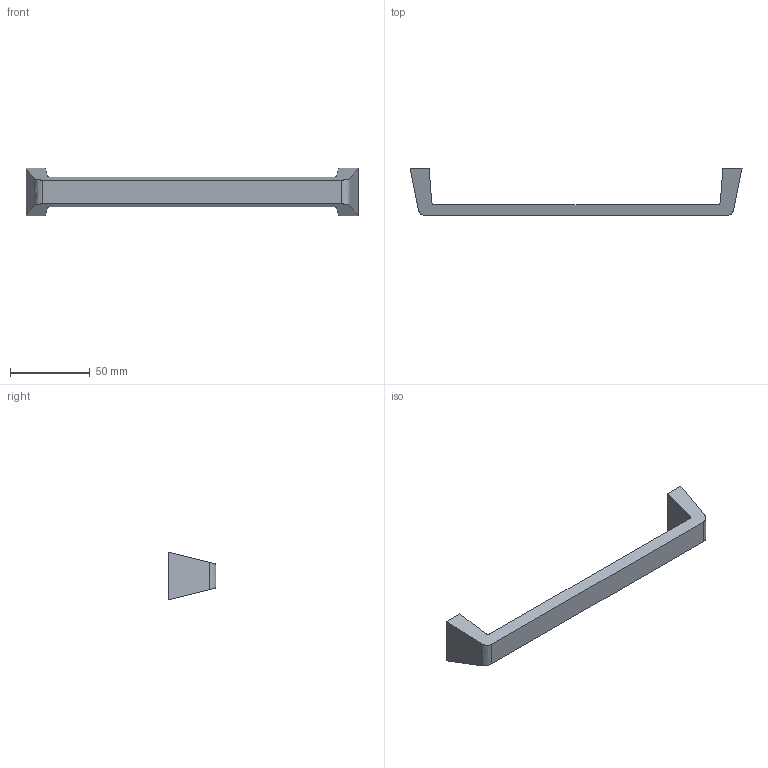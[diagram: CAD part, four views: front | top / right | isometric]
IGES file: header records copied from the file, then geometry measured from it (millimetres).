
Start section: Data from Parasolid IGES Translator 15.0.47, Copyright(c) 2006 Siemens P LM Software. All Rights Reserved.
Global section: file name: 115076.igs; native system:  By UGS Corp.; preprocessor: XPlus GENERIC/IGES 3.0; author: Noname; organization: Noname; date: 20140122.172313; units: millimetre
Bounding box: 208 x 30 x 30 mm (x, y, z)
Surface area: 13468.8 mm2 (no closed solid volume)
Topology: 0 solids, 0 shells, 18 faces, 84 edges, 82 vertices
Faces by surface type: extrusion 12, revolution 6
